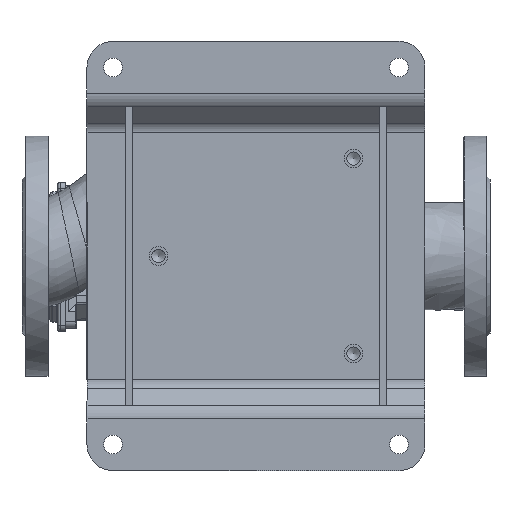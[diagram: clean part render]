
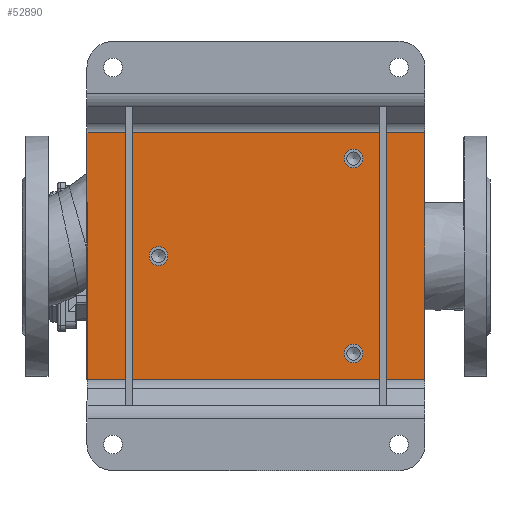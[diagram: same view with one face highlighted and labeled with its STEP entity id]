
A CAD part, top view. The second image highlights one B-rep face of the part: STEP entity #52890.
In plain terms, the highlighted planar face has unit normal (0, 0, 1) as drawn and (0, -1, 0) by its records, which use the part's own axes.
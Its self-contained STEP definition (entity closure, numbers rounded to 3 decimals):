
#125 = PLANE ( 'NONE',  #68600 ) ;
#503 = CARTESIAN_POINT ( 'NONE',  ( 0., -5., -75. ) ) ;
#1277 = DIRECTION ( 'NONE',  ( 0., 0., 1. ) ) ;
#1889 = CIRCLE ( 'NONE', #16135, 7.25 ) ;
#2017 = CARTESIAN_POINT ( 'NONE',  ( 75., -5., 75. ) ) ;
#2799 = DIRECTION ( 'NONE',  ( 0., -1., 0. ) ) ;
#2831 = EDGE_CURVE ( 'NONE', #22125, #73850, #74024, .T. ) ;
#4551 = VECTOR ( 'NONE', #72929, 1000. ) ;
#5810 = DIRECTION ( 'NONE',  ( 0., 0., -1. ) ) ;
#6254 = ORIENTED_EDGE ( 'NONE', *, *, #26314, .F. ) ;
#6347 = DIRECTION ( 'NONE',  ( 0., 0., -1. ) ) ;
#8568 = CARTESIAN_POINT ( 'NONE',  ( -95., -5., 130. ) ) ;
#8750 = ORIENTED_EDGE ( 'NONE', *, *, #47335, .F. ) ;
#9200 = CARTESIAN_POINT ( 'NONE',  ( -75., -5., 67.75 ) ) ;
#11105 = CARTESIAN_POINT ( 'NONE',  ( 95., -5., 130. ) ) ;
#13220 = DIRECTION ( 'NONE',  ( 0., 0., -1. ) ) ;
#14090 = CARTESIAN_POINT ( 'NONE',  ( 95., -5., -130. ) ) ;
#14991 = DIRECTION ( 'NONE',  ( 0., 0., -1. ) ) ;
#16135 = AXIS2_PLACEMENT_3D ( 'NONE', #503, #37478, #43977 ) ;
#16857 = ORIENTED_EDGE ( 'NONE', *, *, #61803, .F. ) ;
#18472 = VECTOR ( 'NONE', #1277, 1000. ) ;
#19176 = DIRECTION ( 'NONE',  ( 0., -1., 0. ) ) ;
#19346 = EDGE_LOOP ( 'NONE', ( #16857 ) ) ;
#19563 = LINE ( 'NONE', #8568, #63986 ) ;
#22125 = VERTEX_POINT ( 'NONE', #73938 ) ;
#22476 = AXIS2_PLACEMENT_3D ( 'NONE', #68918, #75400, #13220 ) ;
#23448 = CARTESIAN_POINT ( 'NONE',  ( 75., -5., 67.75 ) ) ;
#23784 = EDGE_LOOP ( 'NONE', ( #65656 ) ) ;
#26314 = EDGE_CURVE ( 'NONE', #63181, #22125, #67255, .T. ) ;
#28329 = VERTEX_POINT ( 'NONE', #9200 ) ;
#28342 = EDGE_CURVE ( 'NONE', #30944, #30944, #1889, .T. ) ;
#30944 = VERTEX_POINT ( 'NONE', #51168 ) ;
#31009 = FACE_OUTER_BOUND ( 'NONE', #57290, .T. ) ;
#31832 = FACE_BOUND ( 'NONE', #32700, .T. ) ;
#32700 = EDGE_LOOP ( 'NONE', ( #61399 ) ) ;
#37478 = DIRECTION ( 'NONE',  ( 0., -1., 0. ) ) ;
#39085 = DIRECTION ( 'NONE',  ( 1., 0., 0. ) ) ;
#40456 = AXIS2_PLACEMENT_3D ( 'NONE', #2017, #2799, #14991 ) ;
#41733 = VECTOR ( 'NONE', #6347, 1000. ) ;
#43977 = DIRECTION ( 'NONE',  ( 0., 0., -1. ) ) ;
#44437 = FACE_BOUND ( 'NONE', #23784, .T. ) ;
#47335 = EDGE_CURVE ( 'NONE', #73850, #77916, #19563, .T. ) ;
#48390 = EDGE_CURVE ( 'NONE', #28329, #28329, #61434, .T. ) ;
#49467 = LINE ( 'NONE', #62052, #41733 ) ;
#49735 = FACE_BOUND ( 'NONE', #19346, .T. ) ;
#51168 = CARTESIAN_POINT ( 'NONE',  ( 0., -5., -82.25 ) ) ;
#52890 = ADVANCED_FACE ( 'NONE', ( #49735, #31832, #44437, #31009 ), #125, .T. ) ;
#57290 = EDGE_LOOP ( 'NONE', ( #77674, #8750, #62078, #6254 ) ) ;
#59897 = CIRCLE ( 'NONE', #40456, 7.25 ) ;
#60046 = VERTEX_POINT ( 'NONE', #23448 ) ;
#61399 = ORIENTED_EDGE ( 'NONE', *, *, #28342, .F. ) ;
#61434 = CIRCLE ( 'NONE', #22476, 7.25 ) ;
#61519 = CARTESIAN_POINT ( 'NONE',  ( 0., -5., 0. ) ) ;
#61803 = EDGE_CURVE ( 'NONE', #60046, #60046, #59897, .T. ) ;
#62052 = CARTESIAN_POINT ( 'NONE',  ( 95., -5., 130. ) ) ;
#62078 = ORIENTED_EDGE ( 'NONE', *, *, #2831, .F. ) ;
#63066 = CARTESIAN_POINT ( 'NONE',  ( -95., -5., 130. ) ) ;
#63181 = VERTEX_POINT ( 'NONE', #14090 ) ;
#63986 = VECTOR ( 'NONE', #39085, 1000. ) ;
#65656 = ORIENTED_EDGE ( 'NONE', *, *, #48390, .F. ) ;
#67255 = LINE ( 'NONE', #73711, #4551 ) ;
#68600 = AXIS2_PLACEMENT_3D ( 'NONE', #61519, #19176, #5810 ) ;
#68918 = CARTESIAN_POINT ( 'NONE',  ( -75., -5., 75. ) ) ;
#69852 = CARTESIAN_POINT ( 'NONE',  ( -95., -5., 130. ) ) ;
#71025 = EDGE_CURVE ( 'NONE', #77916, #63181, #49467, .T. ) ;
#72929 = DIRECTION ( 'NONE',  ( -1., 0., 0. ) ) ;
#73711 = CARTESIAN_POINT ( 'NONE',  ( -95., -5., -130. ) ) ;
#73850 = VERTEX_POINT ( 'NONE', #69852 ) ;
#73938 = CARTESIAN_POINT ( 'NONE',  ( -95., -5., -130. ) ) ;
#74024 = LINE ( 'NONE', #63066, #18472 ) ;
#75400 = DIRECTION ( 'NONE',  ( 0., -1., 0. ) ) ;
#77674 = ORIENTED_EDGE ( 'NONE', *, *, #71025, .F. ) ;
#77916 = VERTEX_POINT ( 'NONE', #11105 ) ;
